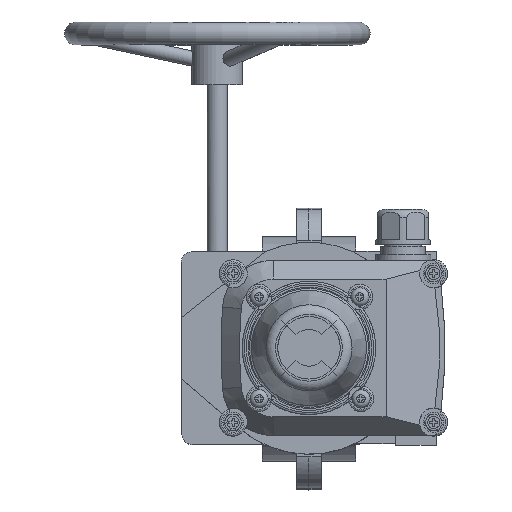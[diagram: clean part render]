
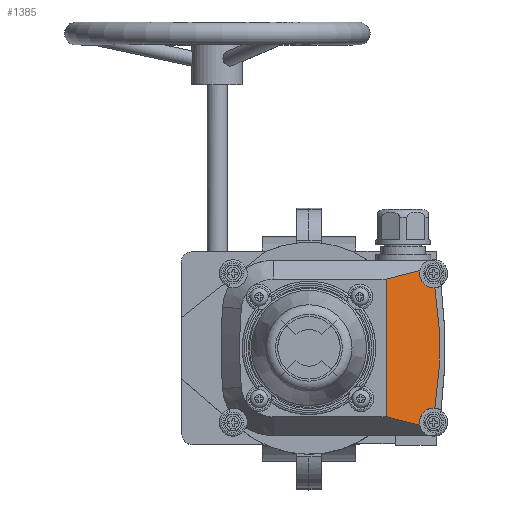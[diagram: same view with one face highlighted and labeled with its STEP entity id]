
A CAD part, top view. The second image highlights one B-rep face of the part: STEP entity #1385.
In plain terms, the highlighted planar face has unit normal (0.287, 0, 0.958).
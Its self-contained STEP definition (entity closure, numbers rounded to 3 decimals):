
#1385=ADVANCED_FACE('',(#14250),#14252,.T.);
#14250=FACE_BOUND('',#14251,.T.);
#14251=EDGE_LOOP('',(#24930,#24931,#24932,#24933,#24934,#24935));
#14252=PLANE('',#14253);
#14253=AXIS2_PLACEMENT_3D('',#14254,#14255,#14256);
#14254=CARTESIAN_POINT('',(4289.,-1615.212,80.127));
#14255=DIRECTION('',(0.287,0.,0.958));
#14256=DIRECTION('',(-0.958,0.,0.287));
#24930=ORIENTED_EDGE('',*,*,#32824,.T.);
#24931=ORIENTED_EDGE('',*,*,#32823,.T.);
#24932=ORIENTED_EDGE('',*,*,#32900,.T.);
#24933=ORIENTED_EDGE('',*,*,#33164,.F.);
#24934=ORIENTED_EDGE('',*,*,#32902,.T.);
#24935=ORIENTED_EDGE('',*,*,#33165,.T.);
#32823=EDGE_CURVE('',#37288,#37293,#37295,.F.);
#32824=EDGE_CURVE('',#37296,#37288,#37297,.T.);
#32900=EDGE_CURVE('',#37293,#37431,#37433,.F.);
#32902=EDGE_CURVE('',#37437,#37434,#37438,.F.);
#33164=EDGE_CURVE('',#37437,#37431,#37895,.T.);
#33165=EDGE_CURVE('',#37434,#37296,#37896,.F.);
#37288=VERTEX_POINT('',#46217);
#37293=VERTEX_POINT('',#46243);
#37295=(BOUNDED_CURVE()B_SPLINE_CURVE(3,
(#46248,#46249,#46250,#46251),
.UNSPECIFIED.,.F.,.F.)B_SPLINE_CURVE_WITH_KNOTS((4,4),
(0.,1.),
.UNSPECIFIED.)CURVE()GEOMETRIC_REPRESENTATION_ITEM()RATIONAL_B_SPLINE_CURVE((1.,
0.734,0.734,1.))REPRESENTATION_ITEM(''));
#37296=VERTEX_POINT('',#46252);
#37297=B_SPLINE_CURVE_WITH_KNOTS('',3,
(#46253,#46254,#46255,#46256,#46257,#46258,#46259,#46260,#46261,#46262,#46263,#46264,
#46265,#46266,#46267,#46268,#46269,#46270,#46271,#46272,#46273,#46274,#46275,#46276,
#46277,#46278,#46279,#46280),
.UNSPECIFIED.,.F.,.F.,
(4,1,1,1,1,1,1,1,1,1,1,1,1,1,1,1,1,1,1,1,1,1,1,1,1,4),
(0.,0.051,0.101,0.151,0.201,0.25,
0.298,0.345,0.391,0.437,0.482,
0.5,0.525,0.567,0.609,0.648,
0.687,0.725,0.761,0.797,0.833,
0.867,0.901,0.934,0.967,1.),
.UNSPECIFIED.);
#37431=VERTEX_POINT('',#46980);
#37433=LINE('',#46984,#46985);
#37434=VERTEX_POINT('',#46987);
#37437=VERTEX_POINT('',#46993);
#37438=LINE('',#46994,#46995);
#37895=LINE('',#49191,#49192);
#37896=(BOUNDED_CURVE()B_SPLINE_CURVE(3,
(#49194,#49195,#49196,#49197),
.UNSPECIFIED.,.F.,.F.)B_SPLINE_CURVE_WITH_KNOTS((4,4),
(0.,1.),
.UNSPECIFIED.)CURVE()GEOMETRIC_REPRESENTATION_ITEM()RATIONAL_B_SPLINE_CURVE((1.,
0.734,0.734,1.))REPRESENTATION_ITEM(''));
#46217=CARTESIAN_POINT('',(4316.27,-1525.694,71.946));
#46243=CARTESIAN_POINT('',(4308.921,-1517.266,74.15));
#46248=CARTESIAN_POINT('',(4308.921,-1517.266,74.15));
#46249=CARTESIAN_POINT('',(4307.873,-1522.231,74.465));
#46250=CARTESIAN_POINT('',(4311.208,-1526.056,73.464));
#46251=CARTESIAN_POINT('',(4316.27,-1525.694,71.946));
#46252=CARTESIAN_POINT('',(4316.27,-1584.73,71.946));
#46253=CARTESIAN_POINT('',(4316.27,-1584.73,71.946));
#46254=CARTESIAN_POINT('',(4316.43,-1583.74,71.898));
#46255=CARTESIAN_POINT('',(4316.732,-1581.764,71.807));
#46256=CARTESIAN_POINT('',(4317.137,-1578.802,71.686));
#46257=CARTESIAN_POINT('',(4317.49,-1575.859,71.58));
#46258=CARTESIAN_POINT('',(4317.794,-1572.939,71.488));
#46259=CARTESIAN_POINT('',(4318.049,-1570.056,71.412));
#46260=CARTESIAN_POINT('',(4318.255,-1567.212,71.35));
#46261=CARTESIAN_POINT('',(4318.415,-1564.42,71.302));
#46262=CARTESIAN_POINT('',(4318.532,-1561.666,71.267));
#46263=CARTESIAN_POINT('',(4318.606,-1558.964,71.245));
#46264=CARTESIAN_POINT('',(4318.634,-1556.815,71.237));
#46265=CARTESIAN_POINT('',(4318.639,-1555.071,71.235));
#46266=CARTESIAN_POINT('',(4318.632,-1553.378,71.237));
#46267=CARTESIAN_POINT('',(4318.6,-1551.229,71.247));
#46268=CARTESIAN_POINT('',(4318.531,-1548.798,71.267));
#46269=CARTESIAN_POINT('',(4318.434,-1546.434,71.297));
#46270=CARTESIAN_POINT('',(4318.311,-1544.151,71.333));
#46271=CARTESIAN_POINT('',(4318.164,-1541.922,71.378));
#46272=CARTESIAN_POINT('',(4317.995,-1539.749,71.428));
#46273=CARTESIAN_POINT('',(4317.804,-1537.618,71.486));
#46274=CARTESIAN_POINT('',(4317.593,-1535.542,71.549));
#46275=CARTESIAN_POINT('',(4317.365,-1533.508,71.617));
#46276=CARTESIAN_POINT('',(4317.118,-1531.514,71.691));
#46277=CARTESIAN_POINT('',(4316.854,-1529.549,71.771));
#46278=CARTESIAN_POINT('',(4316.573,-1527.613,71.855));
#46279=CARTESIAN_POINT('',(4316.373,-1526.331,71.915));
#46280=CARTESIAN_POINT('',(4316.27,-1525.694,71.946));
#46980=CARTESIAN_POINT('',(4292.334,-1521.442,79.127));
#46984=CARTESIAN_POINT('',(4292.334,-1521.442,79.127));
#46985=VECTOR('',#46986,1.);
#46986=DIRECTION('',(0.931,0.234,-0.279));
#46987=CARTESIAN_POINT('',(4308.921,-1593.157,74.15));
#46993=CARTESIAN_POINT('',(4292.334,-1588.982,79.127));
#46994=CARTESIAN_POINT('',(4308.921,-1593.157,74.15));
#46995=VECTOR('',#46996,1.);
#46996=DIRECTION('',(-0.931,0.234,0.279));
#49191=CARTESIAN_POINT('',(4292.334,-1588.982,79.127));
#49192=VECTOR('',#49193,1.);
#49193=DIRECTION('',(0.,1.,0.));
#49194=CARTESIAN_POINT('',(4316.27,-1584.73,71.946));
#49195=CARTESIAN_POINT('',(4311.208,-1584.368,73.464));
#49196=CARTESIAN_POINT('',(4307.873,-1588.192,74.465));
#49197=CARTESIAN_POINT('',(4308.921,-1593.157,74.15));
